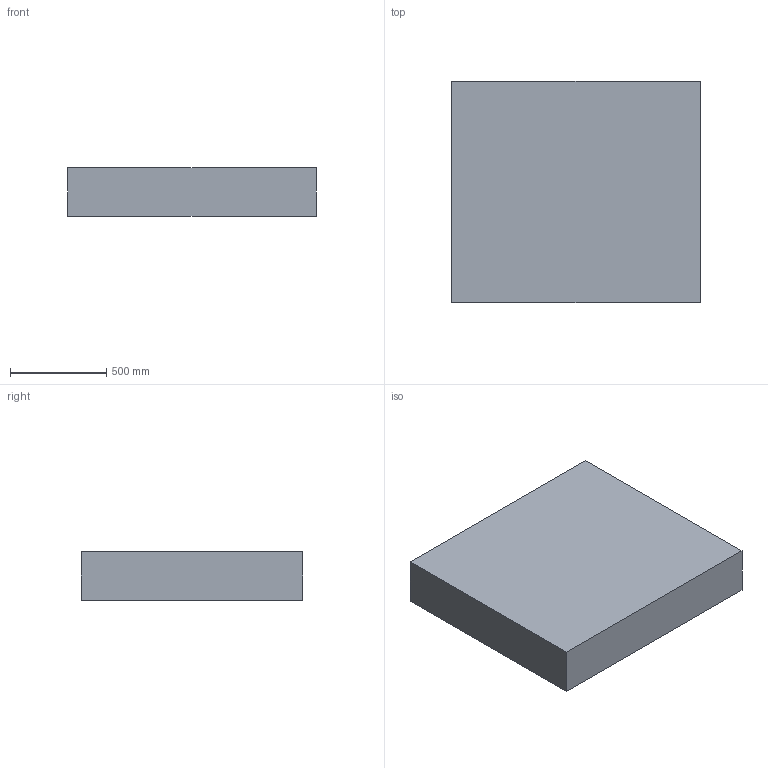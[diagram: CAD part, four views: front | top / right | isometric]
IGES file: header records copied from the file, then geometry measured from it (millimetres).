
Start section:  PTC IGES file: fr_dr_side_flux_plate.igs
Global section: file name: fr_dr_side_flux_plate.igs; native system: Pro/ENGINEER by Parametric Technology Corporation; preprocessor: 1999260; author: oshatz; organization: Unknown; date: 000922.101747; units: millimetre
Bounding box: 1289 x 1149 x 250 mm (x, y, z)
Surface area: 4181122 mm2 (no closed solid volume)
Topology: 0 solids, 0 shells, 6 faces, 24 edges, 24 vertices
Faces by surface type: bspline 6
